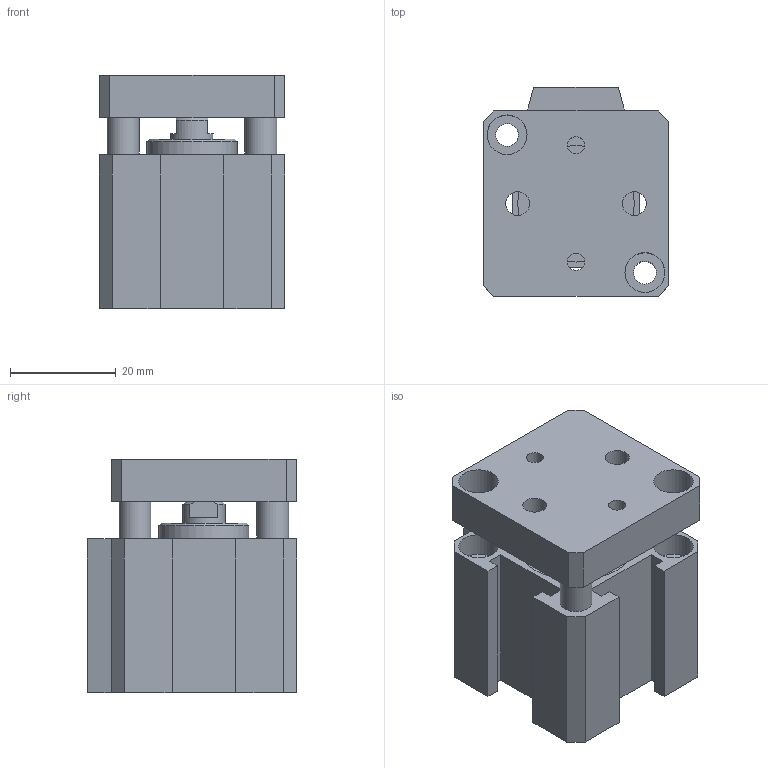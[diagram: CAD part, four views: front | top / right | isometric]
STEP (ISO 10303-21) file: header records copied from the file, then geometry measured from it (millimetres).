
FILE_DESCRIPTION(/* description */ ('PROFILO X COMPATTO Ø20'),/* implementation_level */ '2;1');
FILE_NAME(/* name */ 'I:\Area Tecnica\Disegni\VARIE-3D\Componenti\1500\Ø20\15##_20_####_#\1501_20_0000_AR.stp',/* time_stamp */ '2016-08-24T10:56:24+02:00',/* author */ ('Maniean1'),/* organization */ (''),/* preprocessor_version */ 'ST-DEVELOPER v15.2',/* originating_system */ 'Autodesk Inventor 2014',/* authorisation */ '');
FILE_SCHEMA (('AUTOMOTIVE_DESIGN { 1 0 10303 214 3 1 1 }'));
Length unit declared in the file: millimetre
Products named in the file (3): C_1501_20_0000_AR; S_1501_20_0000_AR; 1501_20_0000_AR
Bounding box: 35 x 39.5 x 44 mm (x, y, z)
Volume: 36811.2 mm3; surface area: 19173.9 mm2
Topology: 2 solids, 2 shells, 111 faces, 255 edges, 170 vertices
Faces by surface type: plane 74, cylinder 32, cone 5
Full cylindrical faces by diameter (mm): 3.242 x2, 4.3 x4, 4.5 x2, 6 x4, 7.5 x10, 8 x2, 8.566 x2, 17 x2, 20 x2, 22 x2
Entity records: 3031 total; most frequent: DIRECTION 516, CARTESIAN_POINT 506, ORIENTED_EDGE 432, EDGE_CURVE 216, EDGE_LOOP 188, AXIS2_PLACEMENT_3D 188, VERTEX_POINT 166, LINE 140
